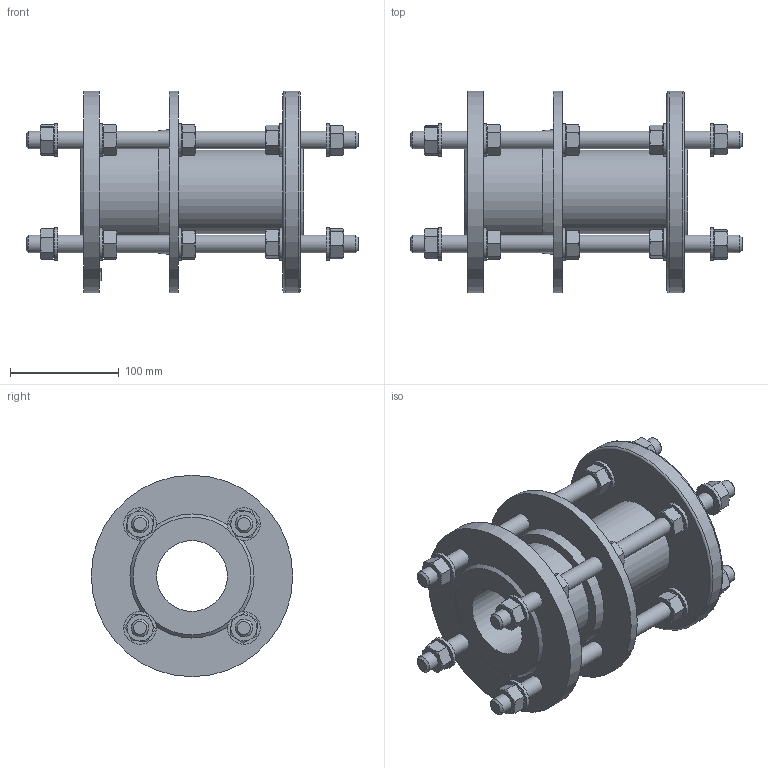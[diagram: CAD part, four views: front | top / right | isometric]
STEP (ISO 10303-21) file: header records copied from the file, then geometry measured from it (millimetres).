
FILE_DESCRIPTION (( 'STEP AP203' ), '1' );
FILE_NAME ('O_265_910_DN60_1XXXXX00_L=205_REV01.step', '2024-10-11T08:02:10', ( '' ), ( '' ), 'SwSTEP 2.0', 'SolidWorks 2022', '' );
FILE_SCHEMA (( 'CONFIG_CONTROL_DESIGN' ));
Length unit declared in the file: millimetre
Products named in the file (1): O_265_910_DN60_1XXXXX00_L=205_REV01
Bounding box: 305 x 185 x 185 mm (x, y, z)
Volume: 1666254.8 mm3; surface area: 308647.6 mm2
Topology: 1 solids, 1 shells, 549 faces, 1204 edges, 724 vertices
Faces by surface type: plane 344, cone 131, cylinder 72, torus 2
Full cylindrical faces by diameter (mm): 16 x24, 24 x20, 30 x20, 65 x1, 77 x1, 95 x1, 185 x3
Entity records: 15142 total; most frequent: CARTESIAN_POINT 3767, DIRECTION 2327, ORIENTED_EDGE 2174, EDGE_CURVE 1087, AXIS2_PLACEMENT_3D 930, EDGE_LOOP 717, VERTEX_POINT 690, FACE_OUTER_BOUND 621
